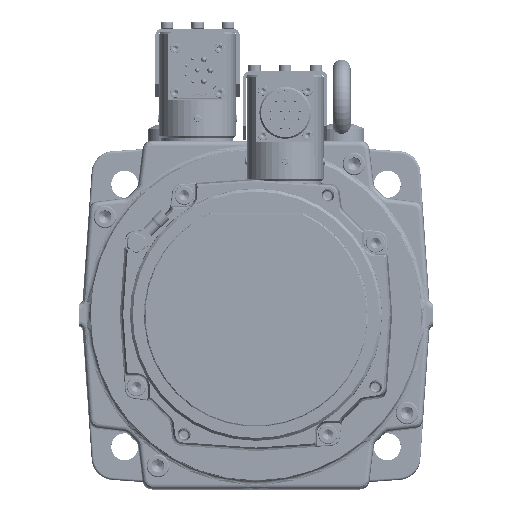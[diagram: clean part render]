
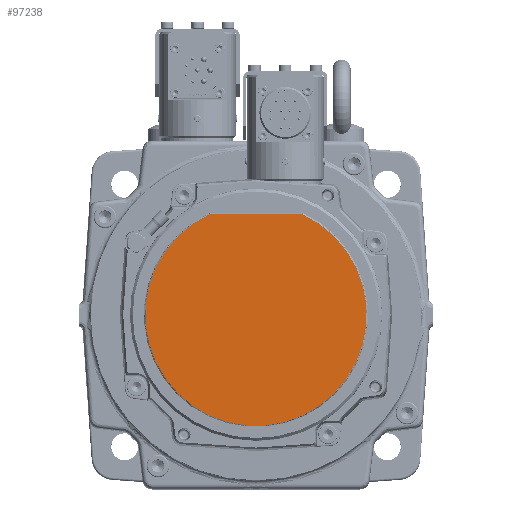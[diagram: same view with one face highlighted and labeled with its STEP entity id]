
A CAD part, top view. The second image highlights one B-rep face of the part: STEP entity #97238.
In plain terms, the highlighted planar face has unit normal (0, 0, 1).
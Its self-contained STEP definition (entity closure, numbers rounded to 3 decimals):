
#89810=CARTESIAN_POINT('',(0.,0.,63.9));
#89811=DIRECTION('',(0.,0.,-1.));
#89812=DIRECTION('',(0.418,0.908,0.));
#89813=AXIS2_PLACEMENT_3D('',#89810,#89811,#89812);
#89822=DIRECTION('',(-1.,0.,0.));
#89823=VECTOR('',#89822,41.125);
#89824=CARTESIAN_POINT('',(20.562,44.7,63.9));
#89825=LINE('',#89824,#89823);
#90486=CARTESIAN_POINT('',(20.562,44.7,63.9));
#90487=CARTESIAN_POINT('',(-20.562,44.7,63.9));
#90488=VERTEX_POINT('',#90486);
#90489=VERTEX_POINT('',#90487);
#97229=CARTESIAN_POINT('',(0.,0.,63.9));
#97230=DIRECTION('',(0.,0.,1.));
#97231=DIRECTION('',(1.,0.,0.));
#97232=AXIS2_PLACEMENT_3D('',#97229,#97230,#97231);
#97233=PLANE('',#97232);
#97234=ORIENTED_EDGE('',*,*,#97208,.T.);
#97235=ORIENTED_EDGE('',*,*,#97220,.F.);
#97236=EDGE_LOOP('',(#97234,#97235));
#97237=FACE_OUTER_BOUND('',#97236,.F.);
#97238=ADVANCED_FACE('',(#97237),#97233,.T.);
#89814=CIRCLE('',#89813,49.203);
#97208=EDGE_CURVE('',#90488,#90489,#89814,.T.);
#97220=EDGE_CURVE('',#90488,#90489,#89825,.T.);
